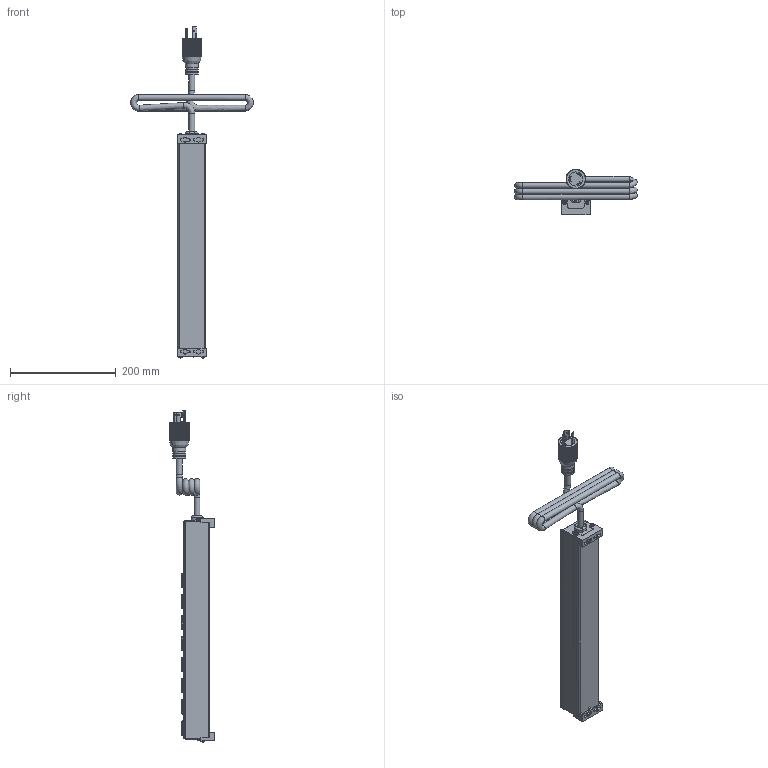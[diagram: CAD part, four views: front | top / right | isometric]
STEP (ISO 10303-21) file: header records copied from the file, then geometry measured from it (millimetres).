
FILE_DESCRIPTION((''),'2;1');
FILE_NAME('E:\Dutton\Manufacturing\drawings\Updated 2009\POWER BARS\1589 series\STEP''s\1589T8C1.stp','2009-12-29T08:59:53',('tfoster'),(''),'Autodesk Inventor 2010','Autodesk Inventor 2010','');
FILE_SCHEMA(('AUTOMOTIVE_DESIGN { 1 0 10303 214 1 1 1 1 }'));
Products named in the file (11): 1589T8C1; 7,8 Outlet extrusion; 8 outlet; #6x0.5 type A; Reset Switch; round head 1-way 8-32 x 0.5 screw; toothwasher; 20 amp Twist Cored; 20 Amp Receptacle; Mounting Bracket; Pilot light
Assembly tree (21 placements, depth 2):
  1589T8C1
    7,8 Outlet extrusion
    8 outlet
    #6x0.5 type A  x4
    Reset Switch
    round head 1-way 8-32 x 0.5 screw
    toothwasher
    20 amp Twist Cored
    20 Amp Receptacle  x8
    Mounting Bracket  x2
    Pilot light
Bounding box: 232.04 x 84.81 x 627.31 mm (x, y, z)
Volume: 469870.1 mm3; surface area: 304687.6 mm2
Topology: 21 solids, 21 shells, 1372 faces, 3970 edges, 2641 vertices
Faces by surface type: plane 922, cylinder 265, bspline 93, cone 39, sphere 37, torus 16
Full cylindrical faces by diameter (mm): 1.803 x3, 1.905 x2, 2.794 x3, 4.3 x1, 4.648 x5, 7.849 x1, 11 x4, 12.5 x1, 22.606 x2, 25.146 x3, 26.67 x1
Entity records: 30229 total; most frequent: CARTESIAN_POINT 8951, ORIENTED_EDGE 4574, DIRECTION 4051, EDGE_CURVE 2287, VERTEX_POINT 1562, VECTOR 1463, LINE 1463, AXIS2_PLACEMENT_3D 1294
